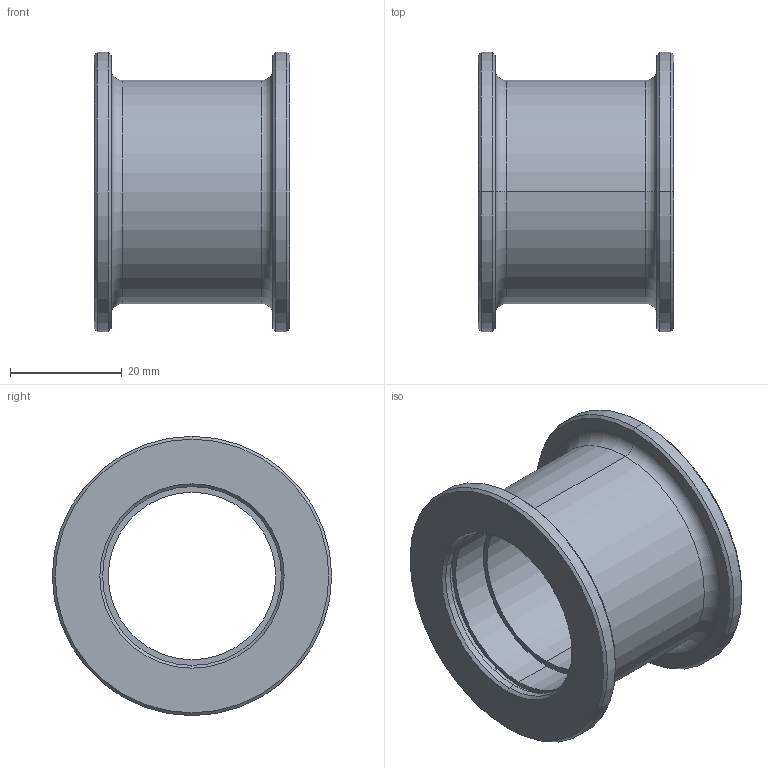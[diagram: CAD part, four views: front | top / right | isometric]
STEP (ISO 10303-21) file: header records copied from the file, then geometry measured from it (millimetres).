
FILE_DESCRIPTION (( 'STEP AP203' ), '1' );
FILE_NAME ('YWSD-2026-03-01-05-03=002 々湍梀踡謫.STEP', '2026-07-24T07:38:55', ( 'Windows 蚚誧' ), ( '' ), 'SwSTEP 2.0', 'SolidWorks 2024', '' );
FILE_SCHEMA (( 'CONFIG_CONTROL_DESIGN' ));
Length unit declared in the file: millimetre
Products named in the file (1): YWSD-2026-03-01-05-03=002 皮带涨紧轮
Bounding box: 35 x 50 x 50 mm (x, y, z)
Volume: 21424.7 mm3; surface area: 11847.1 mm2
Topology: 1 solids, 1 shells, 46 faces, 92 edges, 56 vertices
Faces by surface type: cylinder 20, cone 12, plane 10, torus 4
Entity records: 1289 total; most frequent: DIRECTION 246, CARTESIAN_POINT 195, ORIENTED_EDGE 184, AXIS2_PLACEMENT_3D 107, EDGE_CURVE 92, CIRCLE 60, EDGE_LOOP 56, VERTEX_POINT 56
